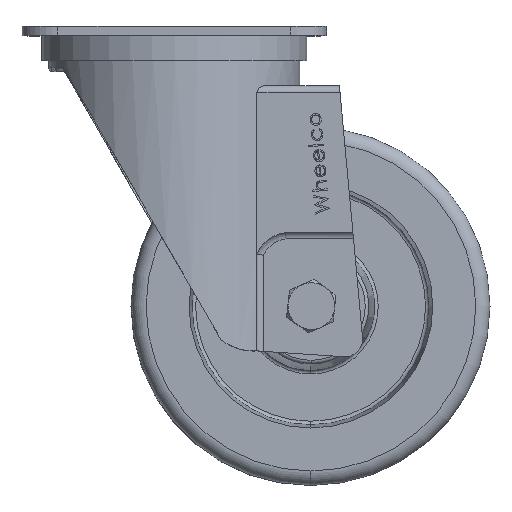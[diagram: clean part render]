
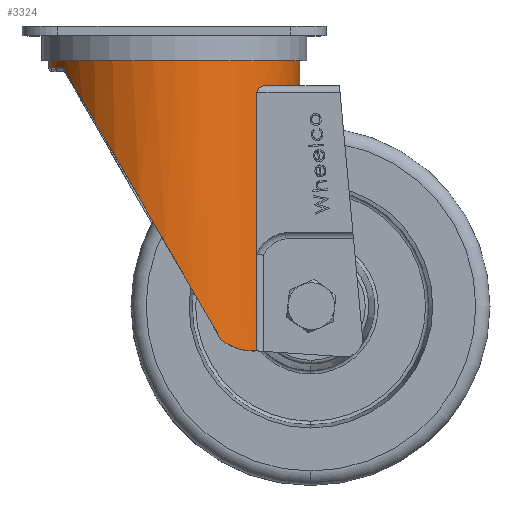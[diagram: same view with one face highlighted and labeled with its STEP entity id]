
A CAD part, top view. The second image highlights one B-rep face of the part: STEP entity #3324.
In plain terms, the highlighted cylindrical face has radius 35 mm (diameter 70 mm), a partial arc.
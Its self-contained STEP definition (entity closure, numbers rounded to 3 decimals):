
#70 = ORIENTED_EDGE ( 'NONE', *, *, #16319, .F. ) ;
#174 = CARTESIAN_POINT ( 'NONE',  ( 16.22, 9., -31.015 ) ) ;
#176 = CARTESIAN_POINT ( 'NONE',  ( 25.397, 14.197, 24.085 ) ) ;
#450 = CARTESIAN_POINT ( 'NONE',  ( 26.48, 15.677, 22.887 ) ) ;
#451 = EDGE_LOOP ( 'NONE', ( #17715, #15420, #8025, #11284, #10818, #5182, #17145, #13273, #70, #7011 ) ) ;
#744 = EDGE_CURVE ( 'NONE', #8628, #2161, #10248, .T. ) ;
#940 = AXIS2_PLACEMENT_3D ( 'NONE', #2682, #18361, #14372 ) ;
#1230 = FACE_OUTER_BOUND ( 'NONE', #451, .T. ) ;
#1297 = CARTESIAN_POINT ( 'NONE',  ( 26.5, 90., 22.864 ) ) ;
#1633 = DIRECTION ( 'NONE',  ( 0., -1., 0. ) ) ;
#2161 = VERTEX_POINT ( 'NONE', #16310 ) ;
#2263 = CARTESIAN_POINT ( 'NONE',  ( 16.22, 9., -31.015 ) ) ;
#2268 = DIRECTION ( 'NONE',  ( 0., -1., 0. ) ) ;
#2634 = LINE ( 'NONE', #8425, #4390 ) ;
#2642 = B_SPLINE_CURVE_WITH_KNOTS ( 'NONE', 3,
 ( #13459, #4800, #9080, #7483, #7301, #17624, #8799, #13361, #11678, #4523, #15931, #11954 ),
 .UNSPECIFIED., .F., .F.,
 ( 4, 2, 2, 2, 2, 4 ),
 ( 0., 0.003, 0.005, 0.006, 0.009, 0.012 ),
 .UNSPECIFIED. ) ;
#2682 = CARTESIAN_POINT ( 'NONE',  ( 0., 14., 0. ) ) ;
#2794 = CARTESIAN_POINT ( 'NONE',  ( 0., 7., 0. ) ) ;
#3163 = VERTEX_POINT ( 'NONE', #4973 ) ;
#3324 = ADVANCED_FACE ( 'NONE', ( #1230 ), #6669, .T. ) ;
#3527 = EDGE_CURVE ( 'NONE', #4020, #16998, #10822, .T. ) ;
#4020 = VERTEX_POINT ( 'NONE', #7632 ) ;
#4299 = CIRCLE ( 'NONE', #940, 35. ) ;
#4390 = VECTOR ( 'NONE', #14417, 1000. ) ;
#4523 = CARTESIAN_POINT ( 'NONE',  ( 27.819, 88.04, 21.264 ) ) ;
#4713 = VERTEX_POINT ( 'NONE', #7051 ) ;
#4735 = CARTESIAN_POINT ( 'NONE',  ( 24.733, 14., 24.767 ) ) ;
#4800 = CARTESIAN_POINT ( 'NONE',  ( 32.238, 85.597, 13.654 ) ) ;
#4973 = CARTESIAN_POINT ( 'NONE',  ( 0., 7., 35. ) ) ;
#5182 = ORIENTED_EDGE ( 'NONE', *, *, #744, .T. ) ;
#5436 = EDGE_CURVE ( 'NONE', #12997, #3163, #16350, .T. ) ;
#5708 = CARTESIAN_POINT ( 'NONE',  ( 32.903, 24.112, -22.29 ) ) ;
#5747 = DIRECTION ( 'NONE',  ( 0., 0., -1. ) ) ;
#6267 = CARTESIAN_POINT ( 'NONE',  ( 26.351, 15.229, 23.035 ) ) ;
#6349 = CARTESIAN_POINT ( 'NONE',  ( 26.155, 14.84, 23.258 ) ) ;
#6669 = CYLINDRICAL_SURFACE ( 'NONE', #17603, 35. ) ;
#6764 = CIRCLE ( 'NONE', #16752, 35. ) ;
#7011 = ORIENTED_EDGE ( 'NONE', *, *, #12587, .T. ) ;
#7051 = CARTESIAN_POINT ( 'NONE',  ( 26.5, 16., 22.864 ) ) ;
#7062 = CARTESIAN_POINT ( 'NONE',  ( 0., 90., 0. ) ) ;
#7301 = CARTESIAN_POINT ( 'NONE',  ( 31.048, 86.896, 16.163 ) ) ;
#7421 = CARTESIAN_POINT ( 'NONE',  ( 26.5, 16., 22.864 ) ) ;
#7483 = CARTESIAN_POINT ( 'NONE',  ( 31.266, 86.712, 15.737 ) ) ;
#7632 = CARTESIAN_POINT ( 'NONE',  ( 26.5, 60.931, 22.864 ) ) ;
#7775 = CARTESIAN_POINT ( 'NONE',  ( 24.958, 14.039, 24.539 ) ) ;
#8002 = CARTESIAN_POINT ( 'NONE',  ( 0., 90., 35. ) ) ;
#8025 = ORIENTED_EDGE ( 'NONE', *, *, #17655, .F. ) ;
#8223 = DIRECTION ( 'NONE',  ( 0., 1., 0. ) ) ;
#8425 = CARTESIAN_POINT ( 'NONE',  ( 0., 90., -35. ) ) ;
#8628 = VERTEX_POINT ( 'NONE', #2263 ) ;
#8799 = CARTESIAN_POINT ( 'NONE',  ( 30.338, 87.364, 17.46 ) ) ;
#8868 = VECTOR ( 'NONE', #15033, 1000. ) ;
#9063 = VERTEX_POINT ( 'NONE', #16585 ) ;
#9080 = CARTESIAN_POINT ( 'NONE',  ( 31.88, 86.095, 14.474 ) ) ;
#9301 = EDGE_CURVE ( 'NONE', #2161, #16998, #2642, .T. ) ;
#9484 = CARTESIAN_POINT ( 'NONE',  ( 26.5, 60.931, 22.864 ) ) ;
#10248 =( BOUNDED_CURVE ( )  B_SPLINE_CURVE ( 3, ( #174, #5708, #16038, #11505 ),
 .UNSPECIFIED., .F., .T. ) 
 B_SPLINE_CURVE_WITH_KNOTS ( ( 4, 4 ),
 ( 0.482, 1.947 ),
 .UNSPECIFIED. ) 
 CURVE ( )  GEOMETRIC_REPRESENTATION_ITEM ( )  RATIONAL_B_SPLINE_CURVE ( ( 1., 0.829, 0.829, 1. ) ) 
 REPRESENTATION_ITEM ( '' )  );
#10660 = EDGE_CURVE ( 'NONE', #12997, #9063, #4299, .T. ) ;
#10818 = ORIENTED_EDGE ( 'NONE', *, *, #12278, .T. ) ;
#10822 = LINE ( 'NONE', #9484, #11585 ) ;
#11034 = DIRECTION ( 'NONE',  ( 0., 0., 1. ) ) ;
#11199 = DIRECTION ( 'NONE',  ( 0., 1., 0. ) ) ;
#11269 = VERTEX_POINT ( 'NONE', #14513 ) ;
#11284 = ORIENTED_EDGE ( 'NONE', *, *, #12982, .F. ) ;
#11505 = CARTESIAN_POINT ( 'NONE',  ( 32.55, 85., 12.864 ) ) ;
#11585 = VECTOR ( 'NONE', #8223, 1000. ) ;
#11678 = CARTESIAN_POINT ( 'NONE',  ( 29.016, 87.876, 19.599 ) ) ;
#11954 = CARTESIAN_POINT ( 'NONE',  ( 26.5, 88., 22.864 ) ) ;
#12278 = EDGE_CURVE ( 'NONE', #11269, #8628, #13476, .T. ) ;
#12312 = CARTESIAN_POINT ( 'NONE',  ( 26.5, 88., 22.864 ) ) ;
#12587 = EDGE_CURVE ( 'NONE', #4713, #9063, #18770, .T. ) ;
#12823 = LINE ( 'NONE', #1297, #16444 ) ;
#12867 = DIRECTION ( 'NONE',  ( 0., 0., -1. ) ) ;
#12886 = AXIS2_PLACEMENT_3D ( 'NONE', #15378, #2268, #11034 ) ;
#12982 = EDGE_CURVE ( 'NONE', #11269, #17635, #2634, .T. ) ;
#12997 = VERTEX_POINT ( 'NONE', #14221 ) ;
#13216 = CARTESIAN_POINT ( 'NONE',  ( 26.405, 15.371, 22.973 ) ) ;
#13273 = ORIENTED_EDGE ( 'NONE', *, *, #3527, .F. ) ;
#13361 = CARTESIAN_POINT ( 'NONE',  ( 29.57, 87.723, 18.751 ) ) ;
#13459 = CARTESIAN_POINT ( 'NONE',  ( 32.55, 85., 12.864 ) ) ;
#13476 = CIRCLE ( 'NONE', #12886, 35. ) ;
#13483 = CARTESIAN_POINT ( 'NONE',  ( 26.5, 15.836, 22.864 ) ) ;
#14221 = CARTESIAN_POINT ( 'NONE',  ( 0., 14., 35. ) ) ;
#14372 = DIRECTION ( 'NONE',  ( -1., 0., 0. ) ) ;
#14417 = DIRECTION ( 'NONE',  ( 0., -1., 0. ) ) ;
#14513 = CARTESIAN_POINT ( 'NONE',  ( 0., 9., -35. ) ) ;
#15033 = DIRECTION ( 'NONE',  ( 0., -1., 0. ) ) ;
#15378 = CARTESIAN_POINT ( 'NONE',  ( 0., 9., 0. ) ) ;
#15420 = ORIENTED_EDGE ( 'NONE', *, *, #5436, .T. ) ;
#15931 = CARTESIAN_POINT ( 'NONE',  ( 27.176, 88.05, 22.081 ) ) ;
#16038 = CARTESIAN_POINT ( 'NONE',  ( 39.47, 54.673, -4.646 ) ) ;
#16310 = CARTESIAN_POINT ( 'NONE',  ( 32.55, 85., 12.864 ) ) ;
#16319 = EDGE_CURVE ( 'NONE', #4713, #4020, #12823, .T. ) ;
#16350 = LINE ( 'NONE', #8002, #8868 ) ;
#16444 = VECTOR ( 'NONE', #11199, 1000. ) ;
#16585 = CARTESIAN_POINT ( 'NONE',  ( 24.5, 14., 24.995 ) ) ;
#16752 = AXIS2_PLACEMENT_3D ( 'NONE', #2794, #1633, #5747 ) ;
#16998 = VERTEX_POINT ( 'NONE', #12312 ) ;
#17145 = ORIENTED_EDGE ( 'NONE', *, *, #9301, .T. ) ;
#17472 = CARTESIAN_POINT ( 'NONE',  ( 25.603, 14.313, 23.866 ) ) ;
#17508 = CARTESIAN_POINT ( 'NONE',  ( 0., 7., -35. ) ) ;
#17603 = AXIS2_PLACEMENT_3D ( 'NONE', #7062, #18248, #12867 ) ;
#17624 = CARTESIAN_POINT ( 'NONE',  ( 30.585, 87.222, 17.024 ) ) ;
#17635 = VERTEX_POINT ( 'NONE', #17508 ) ;
#17648 = CARTESIAN_POINT ( 'NONE',  ( 24.5, 14., 24.995 ) ) ;
#17655 = EDGE_CURVE ( 'NONE', #17635, #3163, #6764, .T. ) ;
#17715 = ORIENTED_EDGE ( 'NONE', *, *, #10660, .F. ) ;
#17741 = CARTESIAN_POINT ( 'NONE',  ( 25.983, 14.635, 23.451 ) ) ;
#18248 = DIRECTION ( 'NONE',  ( 0., -1., 0. ) ) ;
#18361 = DIRECTION ( 'NONE',  ( 0., 1., 0. ) ) ;
#18770 = B_SPLINE_CURVE_WITH_KNOTS ( 'NONE', 3,
 ( #7421, #13483, #450, #13216, #6267, #6349, #17741, #17472, #176, #7775, #4735, #17648 ),
 .UNSPECIFIED., .F., .F.,
 ( 4, 2, 2, 2, 2, 4 ),
 ( 0., 0., 0.001, 0.002, 0.003, 0.004 ),
 .UNSPECIFIED. ) ;
